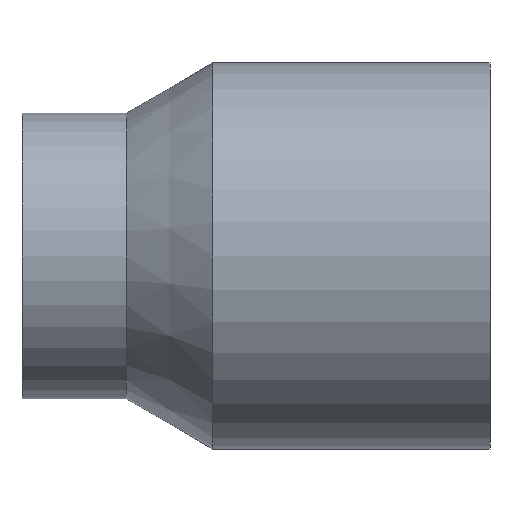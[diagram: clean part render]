
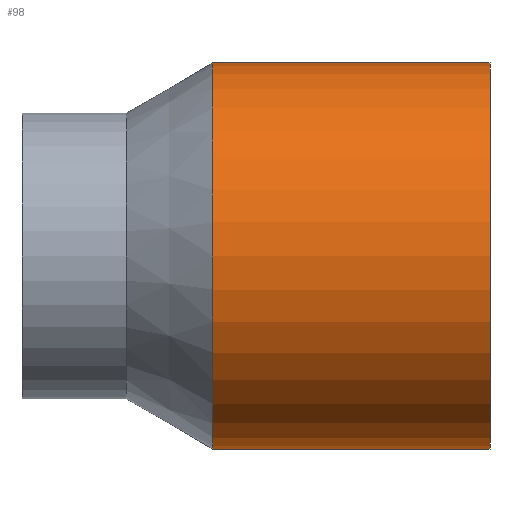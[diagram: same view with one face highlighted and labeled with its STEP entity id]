
A CAD part, front view. The second image highlights one B-rep face of the part: STEP entity #98.
In plain terms, the highlighted cylindrical face has radius 74.3 mm (diameter 148.6 mm), a full revolution.
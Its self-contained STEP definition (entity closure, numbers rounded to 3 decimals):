
#17=CYLINDRICAL_SURFACE($,#115,74.3);
#24=FACE_BOUND($,#46,.T.);
#33=FACE_OUTER_BOUND($,#45,.T.);
#45=EDGE_LOOP($,(#85));
#46=EDGE_LOOP($,(#86));
#56=CIRCLE($,#114,74.3);
#57=CIRCLE($,#116,74.3);
#64=VERTEX_POINT($,#170);
#65=VERTEX_POINT($,#173);
#72=EDGE_CURVE($,#64,#64,#56,.T.);
#73=EDGE_CURVE($,#65,#65,#57,.T.);
#85=ORIENTED_EDGE($,*,*,#73,.F.);
#86=ORIENTED_EDGE($,*,*,#72,.T.);
#98=ADVANCED_FACE($,(#33,#24),#17,.T.);
#114=AXIS2_PLACEMENT_3D($,#171,#142,#143);
#115=AXIS2_PLACEMENT_3D($,#172,#144,#145);
#116=AXIS2_PLACEMENT_3D($,#174,#146,#147);
#142=DIRECTION('center_axis',(1.,0.,0.));
#143=DIRECTION('ref_axis',(0.,1.,0.));
#144=DIRECTION('center_axis',(1.,0.,0.));
#145=DIRECTION('ref_axis',(0.,1.,0.));
#146=DIRECTION('center_axis',(1.,0.,0.));
#147=DIRECTION('ref_axis',(0.,1.,0.));
#170=CARTESIAN_POINT('',(73.429,74.3,0.));
#171=CARTESIAN_POINT('Origin',(73.429,0.,0.));
#172=CARTESIAN_POINT('Origin',(126.714,0.,0.));
#173=CARTESIAN_POINT('',(180.,74.3,0.));
#174=CARTESIAN_POINT('Origin',(180.,0.,0.));
